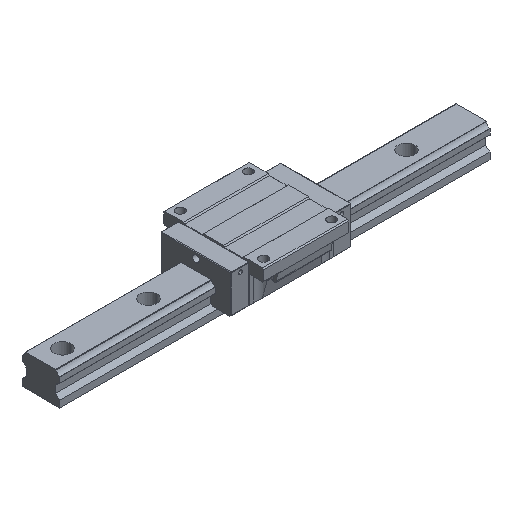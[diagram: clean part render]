
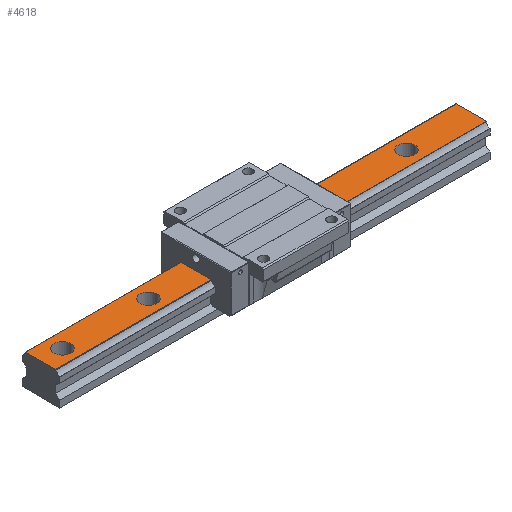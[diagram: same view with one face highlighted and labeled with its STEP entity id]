
A CAD part, isometric view. The second image highlights one B-rep face of the part: STEP entity #4618.
In plain terms, the highlighted planar face has unit normal (0, 0, 1).
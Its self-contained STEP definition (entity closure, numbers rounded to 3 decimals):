
#1 = DIRECTION ( 'NONE',  ( 0., 0., 1. ) ) ;
#72 = FACE_BOUND ( 'NONE', #3143, .T. ) ;
#130 = CARTESIAN_POINT ( 'NONE',  ( 210., 0., 44. ) ) ;
#140 = CARTESIAN_POINT ( 'NONE',  ( 101.5, 0., 44. ) ) ;
#202 = ORIENTED_EDGE ( 'NONE', *, *, #3802, .F. ) ;
#213 = EDGE_LOOP ( 'NONE', ( #4849, #4779 ) ) ;
#279 = ORIENTED_EDGE ( 'NONE', *, *, #446, .F. ) ;
#316 = AXIS2_PLACEMENT_3D ( 'NONE', #5139, #4546, #603 ) ;
#333 = CARTESIAN_POINT ( 'NONE',  ( 90., 0., 44. ) ) ;
#376 = ORIENTED_EDGE ( 'NONE', *, *, #6477, .F. ) ;
#407 = CARTESIAN_POINT ( 'NONE',  ( -30., 0., 44. ) ) ;
#446 = EDGE_CURVE ( 'NONE', #1092, #701, #1620, .T. ) ;
#464 = CARTESIAN_POINT ( 'NONE',  ( -300., -20.932, 44. ) ) ;
#517 = EDGE_LOOP ( 'NONE', ( #2730, #376 ) ) ;
#596 = VECTOR ( 'NONE', #3459, 1000. ) ;
#603 = DIRECTION ( 'NONE',  ( 1., 0., 0. ) ) ;
#613 = EDGE_CURVE ( 'NONE', #1888, #2589, #2620, .T. ) ;
#684 = ORIENTED_EDGE ( 'NONE', *, *, #2284, .T. ) ;
#701 = VERTEX_POINT ( 'NONE', #2255 ) ;
#758 = CARTESIAN_POINT ( 'NONE',  ( -150., 0., 44. ) ) ;
#790 = EDGE_CURVE ( 'NONE', #6442, #1330, #5786, .T. ) ;
#814 = VECTOR ( 'NONE', #3643, 1000. ) ;
#862 = CARTESIAN_POINT ( 'NONE',  ( 90., 0., 44. ) ) ;
#927 = VERTEX_POINT ( 'NONE', #1074 ) ;
#993 = EDGE_CURVE ( 'NONE', #927, #5049, #5158, .T. ) ;
#997 = ORIENTED_EDGE ( 'NONE', *, *, #1607, .F. ) ;
#1074 = CARTESIAN_POINT ( 'NONE',  ( 198.5, 0., 44. ) ) ;
#1088 = ORIENTED_EDGE ( 'NONE', *, *, #613, .F. ) ;
#1092 = VERTEX_POINT ( 'NONE', #1247 ) ;
#1153 = CARTESIAN_POINT ( 'NONE',  ( 300., -20.932, 44. ) ) ;
#1247 = CARTESIAN_POINT ( 'NONE',  ( 300., -20.932, 44. ) ) ;
#1265 = CARTESIAN_POINT ( 'NONE',  ( -281.5, 0., 44. ) ) ;
#1284 = DIRECTION ( 'NONE',  ( 1., 0., 0. ) ) ;
#1330 = VERTEX_POINT ( 'NONE', #3553 ) ;
#1422 = CARTESIAN_POINT ( 'NONE',  ( -18.5, 0., 44. ) ) ;
#1472 = DIRECTION ( 'NONE',  ( 0., -1., 0. ) ) ;
#1510 = DIRECTION ( 'NONE',  ( 1., 0., 0. ) ) ;
#1554 = AXIS2_PLACEMENT_3D ( 'NONE', #5558, #1, #5064 ) ;
#1607 = EDGE_CURVE ( 'NONE', #2589, #1888, #3489, .T. ) ;
#1620 = LINE ( 'NONE', #1153, #2936 ) ;
#1673 = DIRECTION ( 'NONE',  ( 0., 0., 1. ) ) ;
#1875 = DIRECTION ( 'NONE',  ( 0., -1., 0. ) ) ;
#1888 = VERTEX_POINT ( 'NONE', #2274 ) ;
#1987 = DIRECTION ( 'NONE',  ( 0., 0., 1. ) ) ;
#2024 = DIRECTION ( 'NONE',  ( 1., 0., 0. ) ) ;
#2032 = FACE_BOUND ( 'NONE', #213, .T. ) ;
#2080 = EDGE_CURVE ( 'NONE', #2125, #2236, #3171, .T. ) ;
#2125 = VERTEX_POINT ( 'NONE', #1265 ) ;
#2127 = CARTESIAN_POINT ( 'NONE',  ( 300., -20.932, 44. ) ) ;
#2213 = CARTESIAN_POINT ( 'NONE',  ( -138.5, 0., 44. ) ) ;
#2236 = VERTEX_POINT ( 'NONE', #4229 ) ;
#2255 = CARTESIAN_POINT ( 'NONE',  ( -300., -20.932, 44. ) ) ;
#2264 = VERTEX_POINT ( 'NONE', #1422 ) ;
#2274 = CARTESIAN_POINT ( 'NONE',  ( 78.5, 0., 44. ) ) ;
#2284 = EDGE_CURVE ( 'NONE', #5672, #4612, #5469, .T. ) ;
#2427 = DIRECTION ( 'NONE',  ( 1., 0., 0. ) ) ;
#2524 = AXIS2_PLACEMENT_3D ( 'NONE', #130, #4214, #5097 ) ;
#2531 = FACE_BOUND ( 'NONE', #517, .T. ) ;
#2539 = AXIS2_PLACEMENT_3D ( 'NONE', #2127, #3531, #1472 ) ;
#2589 = VERTEX_POINT ( 'NONE', #140 ) ;
#2620 = CIRCLE ( 'NONE', #4736, 11.5 ) ;
#2625 = PLANE ( 'NONE',  #2539 ) ;
#2655 = ORIENTED_EDGE ( 'NONE', *, *, #5118, .F. ) ;
#2730 = ORIENTED_EDGE ( 'NONE', *, *, #790, .F. ) ;
#2741 = CARTESIAN_POINT ( 'NONE',  ( -30., 0., 44. ) ) ;
#2936 = VECTOR ( 'NONE', #5626, 1000. ) ;
#2988 = LINE ( 'NONE', #464, #4085 ) ;
#3123 = FACE_BOUND ( 'NONE', #3642, .T. ) ;
#3143 = EDGE_LOOP ( 'NONE', ( #3270, #2655 ) ) ;
#3171 = CIRCLE ( 'NONE', #316, 11.5 ) ;
#3191 = CIRCLE ( 'NONE', #1554, 11.5 ) ;
#3201 = EDGE_LOOP ( 'NONE', ( #5275, #5744 ) ) ;
#3270 = ORIENTED_EDGE ( 'NONE', *, *, #6460, .F. ) ;
#3320 = CIRCLE ( 'NONE', #4466, 11.5 ) ;
#3404 = CIRCLE ( 'NONE', #3834, 11.5 ) ;
#3459 = DIRECTION ( 'NONE',  ( -1., 0., 0. ) ) ;
#3489 = CIRCLE ( 'NONE', #4231, 11.5 ) ;
#3531 = DIRECTION ( 'NONE',  ( 0., 0., -1. ) ) ;
#3553 = CARTESIAN_POINT ( 'NONE',  ( -161.5, 0., 44. ) ) ;
#3559 = FACE_OUTER_BOUND ( 'NONE', #4827, .T. ) ;
#3629 = AXIS2_PLACEMENT_3D ( 'NONE', #2741, #4797, #4762 ) ;
#3642 = EDGE_LOOP ( 'NONE', ( #997, #1088 ) ) ;
#3643 = DIRECTION ( 'NONE',  ( 0., -1., 0. ) ) ;
#3802 = EDGE_CURVE ( 'NONE', #5672, #1092, #5092, .T. ) ;
#3834 = AXIS2_PLACEMENT_3D ( 'NONE', #407, #4003, #2427 ) ;
#3857 = DIRECTION ( 'NONE',  ( 0., 0., 1. ) ) ;
#4003 = DIRECTION ( 'NONE',  ( 0., 0., 1. ) ) ;
#4063 = FACE_BOUND ( 'NONE', #3201, .T. ) ;
#4085 = VECTOR ( 'NONE', #1875, 1000. ) ;
#4214 = DIRECTION ( 'NONE',  ( 0., 0., 1. ) ) ;
#4229 = CARTESIAN_POINT ( 'NONE',  ( -258.5, 0., 44. ) ) ;
#4231 = AXIS2_PLACEMENT_3D ( 'NONE', #333, #3857, #1284 ) ;
#4311 = EDGE_CURVE ( 'NONE', #4612, #701, #2988, .T. ) ;
#4466 = AXIS2_PLACEMENT_3D ( 'NONE', #758, #1673, #5710 ) ;
#4520 = EDGE_CURVE ( 'NONE', #2236, #2125, #5898, .T. ) ;
#4546 = DIRECTION ( 'NONE',  ( 0., 0., 1. ) ) ;
#4607 = CARTESIAN_POINT ( 'NONE',  ( -300., 20.932, 44. ) ) ;
#4612 = VERTEX_POINT ( 'NONE', #4607 ) ;
#4618 = ADVANCED_FACE ( 'NONE', ( #2032, #2531, #72, #3123, #4063, #3559 ), #2625, .F. ) ;
#4656 = CARTESIAN_POINT ( 'NONE',  ( -41.5, 0., 44. ) ) ;
#4736 = AXIS2_PLACEMENT_3D ( 'NONE', #862, #5852, #5401 ) ;
#4762 = DIRECTION ( 'NONE',  ( 1., 0., 0. ) ) ;
#4779 = ORIENTED_EDGE ( 'NONE', *, *, #2080, .F. ) ;
#4797 = DIRECTION ( 'NONE',  ( 0., 0., 1. ) ) ;
#4827 = EDGE_LOOP ( 'NONE', ( #4911, #279, #202, #684 ) ) ;
#4849 = ORIENTED_EDGE ( 'NONE', *, *, #4520, .F. ) ;
#4911 = ORIENTED_EDGE ( 'NONE', *, *, #4311, .T. ) ;
#4946 = AXIS2_PLACEMENT_3D ( 'NONE', #6505, #1987, #2024 ) ;
#5049 = VERTEX_POINT ( 'NONE', #5812 ) ;
#5064 = DIRECTION ( 'NONE',  ( 1., 0., 0. ) ) ;
#5092 = LINE ( 'NONE', #5156, #814 ) ;
#5097 = DIRECTION ( 'NONE',  ( 1., 0., 0. ) ) ;
#5118 = EDGE_CURVE ( 'NONE', #5802, #2264, #3404, .T. ) ;
#5139 = CARTESIAN_POINT ( 'NONE',  ( -270., 0., 44. ) ) ;
#5156 = CARTESIAN_POINT ( 'NONE',  ( 300., -20.932, 44. ) ) ;
#5158 = CIRCLE ( 'NONE', #2524, 11.5 ) ;
#5275 = ORIENTED_EDGE ( 'NONE', *, *, #5359, .F. ) ;
#5359 = EDGE_CURVE ( 'NONE', #5049, #927, #3191, .T. ) ;
#5381 = CARTESIAN_POINT ( 'NONE',  ( 300., 20.932, 44. ) ) ;
#5390 = AXIS2_PLACEMENT_3D ( 'NONE', #5964, #5450, #1510 ) ;
#5401 = DIRECTION ( 'NONE',  ( 1., 0., 0. ) ) ;
#5450 = DIRECTION ( 'NONE',  ( 0., 0., 1. ) ) ;
#5469 = LINE ( 'NONE', #5381, #596 ) ;
#5558 = CARTESIAN_POINT ( 'NONE',  ( 210., 0., 44. ) ) ;
#5618 = CIRCLE ( 'NONE', #3629, 11.5 ) ;
#5626 = DIRECTION ( 'NONE',  ( -1., 0., 0. ) ) ;
#5672 = VERTEX_POINT ( 'NONE', #5900 ) ;
#5710 = DIRECTION ( 'NONE',  ( 1., 0., 0. ) ) ;
#5744 = ORIENTED_EDGE ( 'NONE', *, *, #993, .F. ) ;
#5786 = CIRCLE ( 'NONE', #4946, 11.5 ) ;
#5802 = VERTEX_POINT ( 'NONE', #4656 ) ;
#5812 = CARTESIAN_POINT ( 'NONE',  ( 221.5, 0., 44. ) ) ;
#5852 = DIRECTION ( 'NONE',  ( 0., 0., 1. ) ) ;
#5898 = CIRCLE ( 'NONE', #5390, 11.5 ) ;
#5900 = CARTESIAN_POINT ( 'NONE',  ( 300., 20.932, 44. ) ) ;
#5964 = CARTESIAN_POINT ( 'NONE',  ( -270., 0., 44. ) ) ;
#6442 = VERTEX_POINT ( 'NONE', #2213 ) ;
#6460 = EDGE_CURVE ( 'NONE', #2264, #5802, #5618, .T. ) ;
#6477 = EDGE_CURVE ( 'NONE', #1330, #6442, #3320, .T. ) ;
#6505 = CARTESIAN_POINT ( 'NONE',  ( -150., 0., 44. ) ) ;
